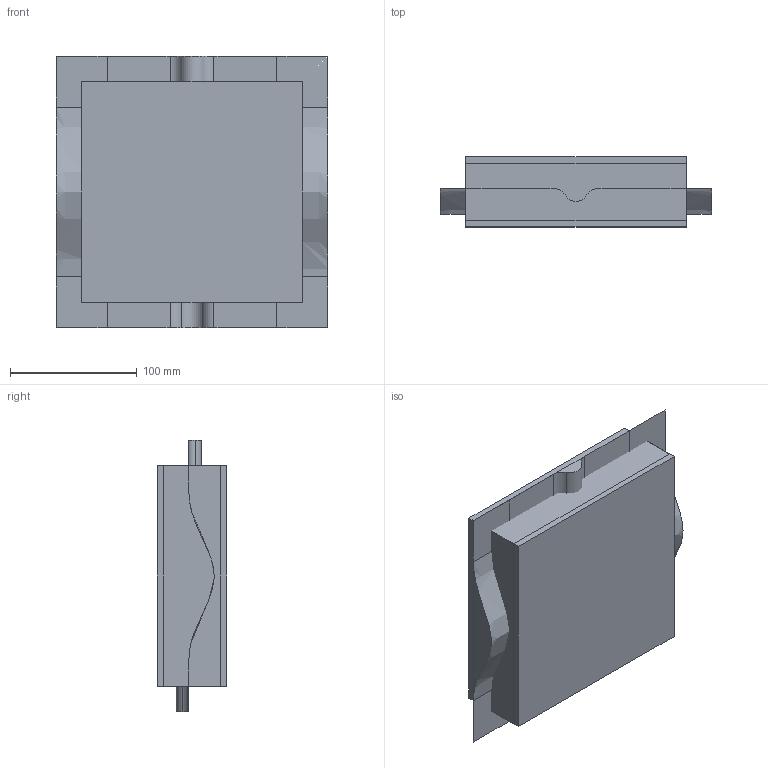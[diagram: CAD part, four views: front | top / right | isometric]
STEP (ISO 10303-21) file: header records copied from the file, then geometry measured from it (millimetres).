
FILE_DESCRIPTION(('CATIA V5 STEP Exchange'),'2;1');
FILE_NAME('C:\_Andres\UNIVERSIDAD\IQS\ASIGNATURAS\DAO\EXF\EXF-16172c\2inicio\Sastre_Cabrerizo_Ej02_v34.stp','2017-03-05T15:45:41+00:00',('none'),('none'),'CATIA Version 5-6 Release 2014 SP1 HF18','CATIA V5 STEP AP203','none');
FILE_SCHEMA(('CONFIG_CONTROL_DESIGN'));
Length unit declared in the file: millimetre
Products named in the file (1): Sastre_Cabrerizo_Ej02_v34
Bounding box: 214 x 55 x 214 mm (x, y, z)
Surface area: 299056.6 mm2
Topology: 3 solids, 10 shells, 72 faces, 205 edges, 150 vertices
Faces by surface type: bspline 32, plane 32, cylinder 6, extrusion 2
Entity records: 5756 total; most frequent: CARTESIAN_POINT 4439, ORIENTED_EDGE 288, DIRECTION 151, EDGE_CURVE 132, VERTEX_POINT 84, VECTOR 77, LINE 75, ADVANCED_FACE 72
